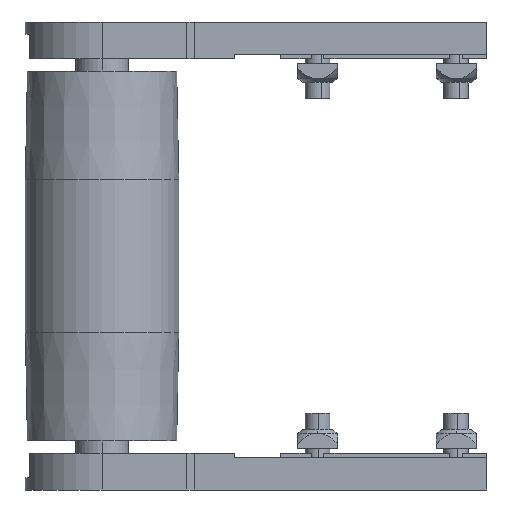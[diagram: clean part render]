
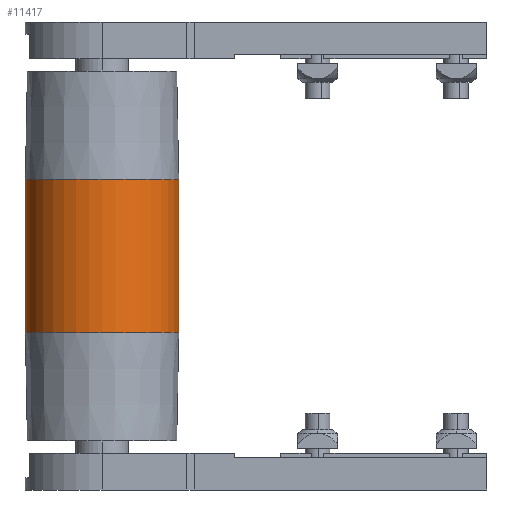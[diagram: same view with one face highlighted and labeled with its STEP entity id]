
A CAD part, front view. The second image highlights one B-rep face of the part: STEP entity #11417.
In plain terms, the highlighted cylindrical face has radius 24.9 mm (diameter 49.8 mm), a partial arc.
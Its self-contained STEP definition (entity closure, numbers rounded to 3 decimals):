
#98 = CARTESIAN_POINT ( 'NONE',  ( -24.9, 0., 60. ) ) ;
#129 = DIRECTION ( 'NONE',  ( 0., 0., 1. ) ) ;
#1605 = CARTESIAN_POINT ( 'NONE',  ( 24.9, 0., 25. ) ) ;
#1681 = CARTESIAN_POINT ( 'NONE',  ( -24.9, 0., -25. ) ) ;
#1778 = CARTESIAN_POINT ( 'NONE',  ( 0., 0., 25. ) ) ;
#1779 = DIRECTION ( 'NONE',  ( 0., 0., 1. ) ) ;
#1780 = DIRECTION ( 'NONE',  ( 1., 0., 0. ) ) ;
#2362 = CARTESIAN_POINT ( 'NONE',  ( -24.9, 0., 25. ) ) ;
#2720 = AXIS2_PLACEMENT_3D ( 'NONE', #6080, #6072, #6068 ) ;
#3302 = CARTESIAN_POINT ( 'NONE',  ( 0., 0., -25. ) ) ;
#3303 = DIRECTION ( 'NONE',  ( 0., 0., 1. ) ) ;
#3304 = DIRECTION ( 'NONE',  ( 1., 0., 0. ) ) ;
#3448 = DIRECTION ( 'NONE',  ( 0., 0., 1. ) ) ;
#3456 = CARTESIAN_POINT ( 'NONE',  ( 24.9, 0., 60. ) ) ;
#5501 = CIRCLE ( 'NONE', #12246, 24.9 ) ;
#6068 = DIRECTION ( 'NONE',  ( 1., 0., 0. ) ) ;
#6072 = DIRECTION ( 'NONE',  ( 0., 0., 1. ) ) ;
#6080 = CARTESIAN_POINT ( 'NONE',  ( 0., 0., 60. ) ) ;
#7720 = CARTESIAN_POINT ( 'NONE',  ( 24.9, 0., -25. ) ) ;
#8038 = AXIS2_PLACEMENT_3D ( 'NONE', #1778, #1779, #1780 ) ;
#8157 = VECTOR ( 'NONE', #3448, 1000. ) ;
#8159 = LINE ( 'NONE', #3456, #8157 ) ;
#8182 = LINE ( 'NONE', #98, #8207 ) ;
#8207 = VECTOR ( 'NONE', #129, 1000. ) ;
#8579 = EDGE_CURVE ( 'NONE', #12734, #13374, #8182, .T. ) ;
#8811 = EDGE_CURVE ( 'NONE', #12734, #10544, #5501, .T. ) ;
#8873 = EDGE_CURVE ( 'NONE', #10544, #12591, #8159, .T. ) ;
#8958 = FACE_OUTER_BOUND ( 'NONE', #9297, .T. ) ;
#8962 = CYLINDRICAL_SURFACE ( 'NONE', #2720, 24.9 ) ;
#9143 = CIRCLE ( 'NONE', #8038, 24.9 ) ;
#9297 = EDGE_LOOP ( 'NONE', ( #9990, #9884, #10121, #9933 ) ) ;
#9884 = ORIENTED_EDGE ( 'NONE', *, *, #8811, .T. ) ;
#9933 = ORIENTED_EDGE ( 'NONE', *, *, #12868, .F. ) ;
#9990 = ORIENTED_EDGE ( 'NONE', *, *, #8579, .F. ) ;
#10121 = ORIENTED_EDGE ( 'NONE', *, *, #8873, .T. ) ;
#10544 = VERTEX_POINT ( 'NONE', #7720 ) ;
#11417 = ADVANCED_FACE ( 'NONE', ( #8958 ), #8962, .T. ) ;
#12246 = AXIS2_PLACEMENT_3D ( 'NONE', #3302, #3303, #3304 ) ;
#12591 = VERTEX_POINT ( 'NONE', #1605 ) ;
#12734 = VERTEX_POINT ( 'NONE', #1681 ) ;
#12868 = EDGE_CURVE ( 'NONE', #13374, #12591, #9143, .T. ) ;
#13374 = VERTEX_POINT ( 'NONE', #2362 ) ;
